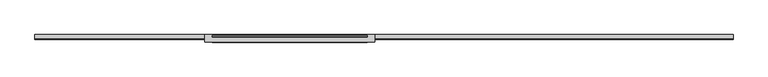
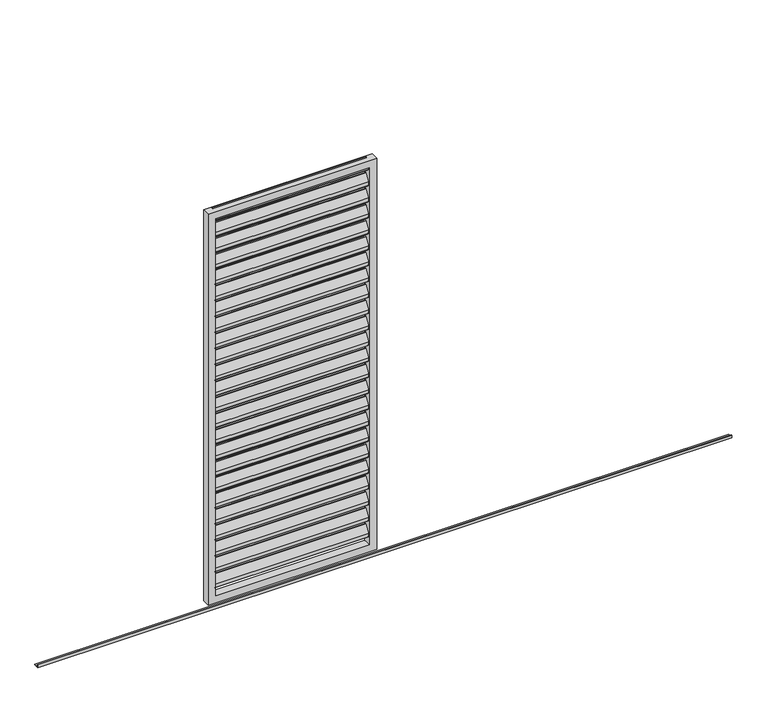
"""IFC4 building model written with IfcOpenShell, lengths in millimetres: proxy geometry, Renson_Amani_Loggia_Paro_Aluminium_Sliding : Renson_Amani_Loggia_Paro_Aluminium_Sliding."""

from ifc_helpers import new_model, si_unit, point, frame, frame_2d, origin, place, context, project, spatial, polyline, circle_curve, trimmed, segment, composite_curve, outline, extrude, source, transform, mapped, element, save


def generic_models_48b574e4(model_context):
    return source(origin(), model_context, "Body", "SweptSolid", [
        extrude(outline(composite_curve([segment(trimmed(circle_curve(frame_2d((12.6675921, 2252.6587719)), 3.0), [point((10.1515804, 2254.292689))], [point((15.6675921, 2252.6587719))], False, "CARTESIAN"), True, "CONTINUOUS"), segment(polyline([(15.6675921, 2252.6587719), (15.6675921, 2234.2979873)]), True, "CONTINUOUS"), segment(trimmed(circle_curve(frame_2d((12.6675921, 2234.2979873)), 3.0), [point((15.6675921, 2234.2979873))], [point((15.1836038, 2232.6640702))], False, "CARTESIAN"), True, "CONTINUOUS"), segment(polyline([(15.1836038, 2232.6640702), (-8.8163962, 2195.707311)]), True, "CONTINUOUS"), segment(trimmed(circle_curve(frame_2d((-11.3324079, 2197.3412281)), 3.0), [point((-8.8163962, 2195.707311))], [point((-14.3324079, 2197.3412281))], False, "CARTESIAN"), True, "CONTINUOUS"), segment(polyline([(-14.3324079, 2197.3412281), (-14.3324079, 2216.5906532), (10.1515804, 2254.292689)]), True, "CONTINUOUS")], self_intersect=False)), frame((-410.0, 0.0, 0.0), z_axis=(1.0, 0.0, 0.0), x_axis=(0.0, 1.0, 0.0)), (0.0, 0.0, 1.0), 820.0),
        extrude(outline(composite_curve([segment(trimmed(circle_curve(frame_2d((12.6675921, 2162.6587719)), 3.0), [point((10.1515804, 2164.292689))], [point((15.6675921, 2162.6587719))], False, "CARTESIAN"), True, "CONTINUOUS"), segment(polyline([(15.6675921, 2162.6587719), (15.6675921, 2144.2979873)]), True, "CONTINUOUS"), segment(trimmed(circle_curve(frame_2d((12.6675921, 2144.2979873)), 3.0), [point((15.6675921, 2144.2979873))], [point((15.1836038, 2142.6640702))], False, "CARTESIAN"), True, "CONTINUOUS"), segment(polyline([(15.1836038, 2142.6640702), (-8.8163962, 2105.707311)]), True, "CONTINUOUS"), segment(trimmed(circle_curve(frame_2d((-11.3324079, 2107.3412281)), 3.0), [point((-8.8163962, 2105.707311))], [point((-14.3324079, 2107.3412281))], False, "CARTESIAN"), True, "CONTINUOUS"), segment(polyline([(-14.3324079, 2107.3412281), (-14.3324079, 2126.5906532), (10.1515804, 2164.292689)]), True, "CONTINUOUS")], self_intersect=False)), frame((-410.0, 0.0, 0.0), z_axis=(1.0, 0.0, 0.0), x_axis=(0.0, 1.0, 0.0)), (0.0, 0.0, 1.0), 820.0),
        extrude(outline(composite_curve([segment(trimmed(circle_curve(frame_2d((12.6675921, 2072.6587719)), 3.0), [point((10.1515804, 2074.292689))], [point((15.6675921, 2072.6587719))], False, "CARTESIAN"), True, "CONTINUOUS"), segment(polyline([(15.6675921, 2072.6587719), (15.6675921, 2054.2979873)]), True, "CONTINUOUS"), segment(trimmed(circle_curve(frame_2d((12.6675921, 2054.2979873)), 3.0), [point((15.6675921, 2054.2979873))], [point((15.1836038, 2052.6640702))], False, "CARTESIAN"), True, "CONTINUOUS"), segment(polyline([(15.1836038, 2052.6640702), (-8.8163962, 2015.707311)]), True, "CONTINUOUS"), segment(trimmed(circle_curve(frame_2d((-11.3324079, 2017.3412281)), 3.0), [point((-8.8163962, 2015.707311))], [point((-14.3324079, 2017.3412281))], False, "CARTESIAN"), True, "CONTINUOUS"), segment(polyline([(-14.3324079, 2017.3412281), (-14.3324079, 2036.5906532), (10.1515804, 2074.292689)]), True, "CONTINUOUS")], self_intersect=False)), frame((-410.0, 0.0, 0.0), z_axis=(1.0, 0.0, 0.0), x_axis=(0.0, 1.0, 0.0)), (0.0, 0.0, 1.0), 820.0),
        extrude(outline(composite_curve([segment(trimmed(circle_curve(frame_2d((12.6675921, 1982.6587719)), 3.0), [point((10.1515804, 1984.292689))], [point((15.6675921, 1982.6587719))], False, "CARTESIAN"), True, "CONTINUOUS"), segment(polyline([(15.6675921, 1982.6587719), (15.6675921, 1964.2979873)]), True, "CONTINUOUS"), segment(trimmed(circle_curve(frame_2d((12.6675921, 1964.2979873)), 3.0), [point((15.6675921, 1964.2979873))], [point((15.1836038, 1962.6640702))], False, "CARTESIAN"), True, "CONTINUOUS"), segment(polyline([(15.1836038, 1962.6640702), (-8.8163962, 1925.707311)]), True, "CONTINUOUS"), segment(trimmed(circle_curve(frame_2d((-11.3324079, 1927.3412281)), 3.0), [point((-8.8163962, 1925.707311))], [point((-14.3324079, 1927.3412281))], False, "CARTESIAN"), True, "CONTINUOUS"), segment(polyline([(-14.3324079, 1927.3412281), (-14.3324079, 1946.5906532), (10.1515804, 1984.292689)]), True, "CONTINUOUS")], self_intersect=False)), frame((-410.0, 0.0, 0.0), z_axis=(1.0, 0.0, 0.0), x_axis=(0.0, 1.0, 0.0)), (0.0, 0.0, 1.0), 820.0),
        extrude(outline(composite_curve([segment(trimmed(circle_curve(frame_2d((12.6675921, 1892.6587719)), 3.0), [point((10.1515804, 1894.292689))], [point((15.6675921, 1892.6587719))], False, "CARTESIAN"), True, "CONTINUOUS"), segment(polyline([(15.6675921, 1892.6587719), (15.6675921, 1874.2979873)]), True, "CONTINUOUS"), segment(trimmed(circle_curve(frame_2d((12.6675921, 1874.2979873)), 3.0), [point((15.6675921, 1874.2979873))], [point((15.1836038, 1872.6640702))], False, "CARTESIAN"), True, "CONTINUOUS"), segment(polyline([(15.1836038, 1872.6640702), (-8.8163962, 1835.707311)]), True, "CONTINUOUS"), segment(trimmed(circle_curve(frame_2d((-11.3324079, 1837.3412281)), 3.0), [point((-8.8163962, 1835.707311))], [point((-14.3324079, 1837.3412281))], False, "CARTESIAN"), True, "CONTINUOUS"), segment(polyline([(-14.3324079, 1837.3412281), (-14.3324079, 1856.5906532), (10.1515804, 1894.292689)]), True, "CONTINUOUS")], self_intersect=False)), frame((-410.0, 0.0, 0.0), z_axis=(1.0, 0.0, 0.0), x_axis=(0.0, 1.0, 0.0)), (0.0, 0.0, 1.0), 820.0),
        extrude(outline(composite_curve([segment(trimmed(circle_curve(frame_2d((12.6675921, 1802.6587719)), 3.0), [point((10.1515804, 1804.292689))], [point((15.6675921, 1802.6587719))], False, "CARTESIAN"), True, "CONTINUOUS"), segment(polyline([(15.6675921, 1802.6587719), (15.6675921, 1784.2979873)]), True, "CONTINUOUS"), segment(trimmed(circle_curve(frame_2d((12.6675921, 1784.2979873)), 3.0), [point((15.6675921, 1784.2979873))], [point((15.1836038, 1782.6640702))], False, "CARTESIAN"), True, "CONTINUOUS"), segment(polyline([(15.1836038, 1782.6640702), (-8.8163962, 1745.707311)]), True, "CONTINUOUS"), segment(trimmed(circle_curve(frame_2d((-11.3324079, 1747.3412281)), 3.0), [point((-8.8163962, 1745.707311))], [point((-14.3324079, 1747.3412281))], False, "CARTESIAN"), True, "CONTINUOUS"), segment(polyline([(-14.3324079, 1747.3412281), (-14.3324079, 1766.5906532), (10.1515804, 1804.292689)]), True, "CONTINUOUS")], self_intersect=False)), frame((-410.0, 0.0, 0.0), z_axis=(1.0, 0.0, 0.0), x_axis=(0.0, 1.0, 0.0)), (0.0, 0.0, 1.0), 820.0),
        extrude(outline(composite_curve([segment(trimmed(circle_curve(frame_2d((12.6675921, 1712.6587719)), 3.0), [point((10.1515804, 1714.292689))], [point((15.6675921, 1712.6587719))], False, "CARTESIAN"), True, "CONTINUOUS"), segment(polyline([(15.6675921, 1712.6587719), (15.6675921, 1694.2979873)]), True, "CONTINUOUS"), segment(trimmed(circle_curve(frame_2d((12.6675921, 1694.2979873)), 3.0), [point((15.6675921, 1694.2979873))], [point((15.1836038, 1692.6640702))], False, "CARTESIAN"), True, "CONTINUOUS"), segment(polyline([(15.1836038, 1692.6640702), (-8.8163962, 1655.707311)]), True, "CONTINUOUS"), segment(trimmed(circle_curve(frame_2d((-11.3324079, 1657.3412281)), 3.0), [point((-8.8163962, 1655.707311))], [point((-14.3324079, 1657.3412281))], False, "CARTESIAN"), True, "CONTINUOUS"), segment(polyline([(-14.3324079, 1657.3412281), (-14.3324079, 1676.5906532), (10.1515804, 1714.292689)]), True, "CONTINUOUS")], self_intersect=False)), frame((-410.0, 0.0, 0.0), z_axis=(1.0, 0.0, 0.0), x_axis=(0.0, 1.0, 0.0)), (0.0, 0.0, 1.0), 820.0),
        extrude(outline(composite_curve([segment(trimmed(circle_curve(frame_2d((12.6675921, 1622.6587719)), 3.0), [point((10.1515804, 1624.292689))], [point((15.6675921, 1622.6587719))], False, "CARTESIAN"), True, "CONTINUOUS"), segment(polyline([(15.6675921, 1622.6587719), (15.6675921, 1604.2979873)]), True, "CONTINUOUS"), segment(trimmed(circle_curve(frame_2d((12.6675921, 1604.2979873)), 3.0), [point((15.6675921, 1604.2979873))], [point((15.1836038, 1602.6640702))], False, "CARTESIAN"), True, "CONTINUOUS"), segment(polyline([(15.1836038, 1602.6640702), (-8.8163962, 1565.707311)]), True, "CONTINUOUS"), segment(trimmed(circle_curve(frame_2d((-11.3324079, 1567.3412281)), 3.0), [point((-8.8163962, 1565.707311))], [point((-14.3324079, 1567.3412281))], False, "CARTESIAN"), True, "CONTINUOUS"), segment(polyline([(-14.3324079, 1567.3412281), (-14.3324079, 1586.5906532), (10.1515804, 1624.292689)]), True, "CONTINUOUS")], self_intersect=False)), frame((-410.0, 0.0, 0.0), z_axis=(1.0, 0.0, 0.0), x_axis=(0.0, 1.0, 0.0)), (0.0, 0.0, 1.0), 820.0),
        extrude(outline(composite_curve([segment(trimmed(circle_curve(frame_2d((12.6675921, 1532.6587719)), 3.0), [point((10.1515804, 1534.292689))], [point((15.6675921, 1532.6587719))], False, "CARTESIAN"), True, "CONTINUOUS"), segment(polyline([(15.6675921, 1532.6587719), (15.6675921, 1514.2979873)]), True, "CONTINUOUS"), segment(trimmed(circle_curve(frame_2d((12.6675921, 1514.2979873)), 3.0), [point((15.6675921, 1514.2979873))], [point((15.1836038, 1512.6640702))], False, "CARTESIAN"), True, "CONTINUOUS"), segment(polyline([(15.1836038, 1512.6640702), (-8.8163962, 1475.707311)]), True, "CONTINUOUS"), segment(trimmed(circle_curve(frame_2d((-11.3324079, 1477.3412281)), 3.0), [point((-8.8163962, 1475.707311))], [point((-14.3324079, 1477.3412281))], False, "CARTESIAN"), True, "CONTINUOUS"), segment(polyline([(-14.3324079, 1477.3412281), (-14.3324079, 1496.5906532), (10.1515804, 1534.292689)]), True, "CONTINUOUS")], self_intersect=False)), frame((-410.0, 0.0, 0.0), z_axis=(1.0, 0.0, 0.0), x_axis=(0.0, 1.0, 0.0)), (0.0, 0.0, 1.0), 820.0),
        extrude(outline(composite_curve([segment(trimmed(circle_curve(frame_2d((12.6675921, 1442.6587719)), 3.0), [point((10.1515804, 1444.292689))], [point((15.6675921, 1442.6587719))], False, "CARTESIAN"), True, "CONTINUOUS"), segment(polyline([(15.6675921, 1442.6587719), (15.6675921, 1424.2979873)]), True, "CONTINUOUS"), segment(trimmed(circle_curve(frame_2d((12.6675921, 1424.2979873)), 3.0), [point((15.6675921, 1424.2979873))], [point((15.1836038, 1422.6640702))], False, "CARTESIAN"), True, "CONTINUOUS"), segment(polyline([(15.1836038, 1422.6640702), (-8.8163962, 1385.707311)]), True, "CONTINUOUS"), segment(trimmed(circle_curve(frame_2d((-11.3324079, 1387.3412281)), 3.0), [point((-8.8163962, 1385.707311))], [point((-14.3324079, 1387.3412281))], False, "CARTESIAN"), True, "CONTINUOUS"), segment(polyline([(-14.3324079, 1387.3412281), (-14.3324079, 1406.5906532), (10.1515804, 1444.292689)]), True, "CONTINUOUS")], self_intersect=False)), frame((-410.0, 0.0, 0.0), z_axis=(1.0, 0.0, 0.0), x_axis=(0.0, 1.0, 0.0)), (0.0, 0.0, 1.0), 820.0),
        extrude(outline(composite_curve([segment(trimmed(circle_curve(frame_2d((12.6675921, 1352.6587719)), 3.0), [point((10.1515804, 1354.292689))], [point((15.6675921, 1352.6587719))], False, "CARTESIAN"), True, "CONTINUOUS"), segment(polyline([(15.6675921, 1352.6587719), (15.6675921, 1334.2979873)]), True, "CONTINUOUS"), segment(trimmed(circle_curve(frame_2d((12.6675921, 1334.2979873)), 3.0), [point((15.6675921, 1334.2979873))], [point((15.1836038, 1332.6640702))], False, "CARTESIAN"), True, "CONTINUOUS"), segment(polyline([(15.1836038, 1332.6640702), (-8.8163962, 1295.707311)]), True, "CONTINUOUS"), segment(trimmed(circle_curve(frame_2d((-11.3324079, 1297.3412281)), 3.0), [point((-8.8163962, 1295.707311))], [point((-14.3324079, 1297.3412281))], False, "CARTESIAN"), True, "CONTINUOUS"), segment(polyline([(-14.3324079, 1297.3412281), (-14.3324079, 1316.5906532), (10.1515804, 1354.292689)]), True, "CONTINUOUS")], self_intersect=False)), frame((-410.0, 0.0, 0.0), z_axis=(1.0, 0.0, 0.0), x_axis=(0.0, 1.0, 0.0)), (0.0, 0.0, 1.0), 820.0),
        extrude(outline(composite_curve([segment(trimmed(circle_curve(frame_2d((12.6675921, 1262.6587719)), 3.0), [point((10.1515804, 1264.292689))], [point((15.6675921, 1262.6587719))], False, "CARTESIAN"), True, "CONTINUOUS"), segment(polyline([(15.6675921, 1262.6587719), (15.6675921, 1244.2979873)]), True, "CONTINUOUS"), segment(trimmed(circle_curve(frame_2d((12.6675921, 1244.2979873)), 3.0), [point((15.6675921, 1244.2979873))], [point((15.1836038, 1242.6640702))], False, "CARTESIAN"), True, "CONTINUOUS"), segment(polyline([(15.1836038, 1242.6640702), (-8.8163962, 1205.707311)]), True, "CONTINUOUS"), segment(trimmed(circle_curve(frame_2d((-11.3324079, 1207.3412281)), 3.0), [point((-8.8163962, 1205.707311))], [point((-14.3324079, 1207.3412281))], False, "CARTESIAN"), True, "CONTINUOUS"), segment(polyline([(-14.3324079, 1207.3412281), (-14.3324079, 1226.5906532), (10.1515804, 1264.292689)]), True, "CONTINUOUS")], self_intersect=False)), frame((-410.0, 0.0, 0.0), z_axis=(1.0, 0.0, 0.0), x_axis=(0.0, 1.0, 0.0)), (0.0, 0.0, 1.0), 820.0),
        extrude(outline(composite_curve([segment(trimmed(circle_curve(frame_2d((12.6675921, 1172.6587719)), 3.0), [point((10.1515804, 1174.292689))], [point((15.6675921, 1172.6587719))], False, "CARTESIAN"), True, "CONTINUOUS"), segment(polyline([(15.6675921, 1172.6587719), (15.6675921, 1154.2979873)]), True, "CONTINUOUS"), segment(trimmed(circle_curve(frame_2d((12.6675921, 1154.2979873)), 3.0), [point((15.6675921, 1154.2979873))], [point((15.1836038, 1152.6640702))], False, "CARTESIAN"), True, "CONTINUOUS"), segment(polyline([(15.1836038, 1152.6640702), (-8.8163962, 1115.707311)]), True, "CONTINUOUS"), segment(trimmed(circle_curve(frame_2d((-11.3324079, 1117.3412281)), 3.0), [point((-8.8163962, 1115.707311))], [point((-14.3324079, 1117.3412281))], False, "CARTESIAN"), True, "CONTINUOUS"), segment(polyline([(-14.3324079, 1117.3412281), (-14.3324079, 1136.5906532), (10.1515804, 1174.292689)]), True, "CONTINUOUS")], self_intersect=False)), frame((-410.0, 0.0, 0.0), z_axis=(1.0, 0.0, 0.0), x_axis=(0.0, 1.0, 0.0)), (0.0, 0.0, 1.0), 820.0),
        extrude(outline(composite_curve([segment(trimmed(circle_curve(frame_2d((12.6675921, 1082.6587719)), 3.0), [point((10.1515804, 1084.292689))], [point((15.6675921, 1082.6587719))], False, "CARTESIAN"), True, "CONTINUOUS"), segment(polyline([(15.6675921, 1082.6587719), (15.6675921, 1064.2979873)]), True, "CONTINUOUS"), segment(trimmed(circle_curve(frame_2d((12.6675921, 1064.2979873)), 3.0), [point((15.6675921, 1064.2979873))], [point((15.1836038, 1062.6640702))], False, "CARTESIAN"), True, "CONTINUOUS"), segment(polyline([(15.1836038, 1062.6640702), (-8.8163962, 1025.707311)]), True, "CONTINUOUS"), segment(trimmed(circle_curve(frame_2d((-11.3324079, 1027.3412281)), 3.0), [point((-8.8163962, 1025.707311))], [point((-14.3324079, 1027.3412281))], False, "CARTESIAN"), True, "CONTINUOUS"), segment(polyline([(-14.3324079, 1027.3412281), (-14.3324079, 1046.5906532), (10.1515804, 1084.292689)]), True, "CONTINUOUS")], self_intersect=False)), frame((-410.0, 0.0, 0.0), z_axis=(1.0, 0.0, 0.0), x_axis=(0.0, 1.0, 0.0)), (0.0, 0.0, 1.0), 820.0),
        extrude(outline(composite_curve([segment(trimmed(circle_curve(frame_2d((12.6675921, 992.6587719)), 3.0), [point((10.1515804, 994.292689))], [point((15.6675921, 992.6587719))], False, "CARTESIAN"), True, "CONTINUOUS"), segment(polyline([(15.6675921, 992.6587719), (15.6675921, 974.2979873)]), True, "CONTINUOUS"), segment(trimmed(circle_curve(frame_2d((12.6675921, 974.2979873)), 3.0), [point((15.6675921, 974.2979873))], [point((15.1836038, 972.6640702))], False, "CARTESIAN"), True, "CONTINUOUS"), segment(polyline([(15.1836038, 972.6640702), (-8.8163962, 935.707311)]), True, "CONTINUOUS"), segment(trimmed(circle_curve(frame_2d((-11.3324079, 937.3412281)), 3.0), [point((-8.8163962, 935.707311))], [point((-14.3324079, 937.3412281))], False, "CARTESIAN"), True, "CONTINUOUS"), segment(polyline([(-14.3324079, 937.3412281), (-14.3324079, 956.5906532), (10.1515804, 994.292689)]), True, "CONTINUOUS")], self_intersect=False)), frame((-410.0, 0.0, 0.0), z_axis=(1.0, 0.0, 0.0), x_axis=(0.0, 1.0, 0.0)), (0.0, 0.0, 1.0), 820.0),
        extrude(outline(composite_curve([segment(trimmed(circle_curve(frame_2d((12.6675921, 902.6587719)), 3.0), [point((10.1515804, 904.292689))], [point((15.6675921, 902.6587719))], False, "CARTESIAN"), True, "CONTINUOUS"), segment(polyline([(15.6675921, 902.6587719), (15.6675921, 884.2979873)]), True, "CONTINUOUS"), segment(trimmed(circle_curve(frame_2d((12.6675921, 884.2979873)), 3.0), [point((15.6675921, 884.2979873))], [point((15.1836038, 882.6640702))], False, "CARTESIAN"), True, "CONTINUOUS"), segment(polyline([(15.1836038, 882.6640702), (-8.8163962, 845.707311)]), True, "CONTINUOUS"), segment(trimmed(circle_curve(frame_2d((-11.3324079, 847.3412281)), 3.0), [point((-8.8163962, 845.707311))], [point((-14.3324079, 847.3412281))], False, "CARTESIAN"), True, "CONTINUOUS"), segment(polyline([(-14.3324079, 847.3412281), (-14.3324079, 866.5906532), (10.1515804, 904.292689)]), True, "CONTINUOUS")], self_intersect=False)), frame((-410.0, 0.0, 0.0), z_axis=(1.0, 0.0, 0.0), x_axis=(0.0, 1.0, 0.0)), (0.0, 0.0, 1.0), 820.0),
        extrude(outline(composite_curve([segment(trimmed(circle_curve(frame_2d((12.6675921, 812.6587719)), 3.0), [point((10.1515804, 814.292689))], [point((15.6675921, 812.6587719))], False, "CARTESIAN"), True, "CONTINUOUS"), segment(polyline([(15.6675921, 812.6587719), (15.6675921, 794.2979873)]), True, "CONTINUOUS"), segment(trimmed(circle_curve(frame_2d((12.6675921, 794.2979873)), 3.0), [point((15.6675921, 794.2979873))], [point((15.1836038, 792.6640702))], False, "CARTESIAN"), True, "CONTINUOUS"), segment(polyline([(15.1836038, 792.6640702), (-8.8163962, 755.707311)]), True, "CONTINUOUS"), segment(trimmed(circle_curve(frame_2d((-11.3324079, 757.3412281)), 3.0), [point((-8.8163962, 755.707311))], [point((-14.3324079, 757.3412281))], False, "CARTESIAN"), True, "CONTINUOUS"), segment(polyline([(-14.3324079, 757.3412281), (-14.3324079, 776.5906532), (10.1515804, 814.292689)]), True, "CONTINUOUS")], self_intersect=False)), frame((-410.0, 0.0, 0.0), z_axis=(1.0, 0.0, 0.0), x_axis=(0.0, 1.0, 0.0)), (0.0, 0.0, 1.0), 820.0),
        extrude(outline(composite_curve([segment(trimmed(circle_curve(frame_2d((12.6675921, 722.6587719)), 3.0), [point((10.1515804, 724.292689))], [point((15.6675921, 722.6587719))], False, "CARTESIAN"), True, "CONTINUOUS"), segment(polyline([(15.6675921, 722.6587719), (15.6675921, 704.2979873)]), True, "CONTINUOUS"), segment(trimmed(circle_curve(frame_2d((12.6675921, 704.2979873)), 3.0), [point((15.6675921, 704.2979873))], [point((15.1836038, 702.6640702))], False, "CARTESIAN"), True, "CONTINUOUS"), segment(polyline([(15.1836038, 702.6640702), (-8.8163962, 665.707311)]), True, "CONTINUOUS"), segment(trimmed(circle_curve(frame_2d((-11.3324079, 667.3412281)), 3.0), [point((-8.8163962, 665.707311))], [point((-14.3324079, 667.3412281))], False, "CARTESIAN"), True, "CONTINUOUS"), segment(polyline([(-14.3324079, 667.3412281), (-14.3324079, 686.5906532), (10.1515804, 724.292689)]), True, "CONTINUOUS")], self_intersect=False)), frame((-410.0, 0.0, 0.0), z_axis=(1.0, 0.0, 0.0), x_axis=(0.0, 1.0, 0.0)), (0.0, 0.0, 1.0), 820.0),
        extrude(outline(composite_curve([segment(trimmed(circle_curve(frame_2d((12.6675921, 632.6587719)), 3.0), [point((10.1515804, 634.292689))], [point((15.6675921, 632.6587719))], False, "CARTESIAN"), True, "CONTINUOUS"), segment(polyline([(15.6675921, 632.6587719), (15.6675921, 614.2979873)]), True, "CONTINUOUS"), segment(trimmed(circle_curve(frame_2d((12.6675921, 614.2979873)), 3.0), [point((15.6675921, 614.2979873))], [point((15.1836038, 612.6640702))], False, "CARTESIAN"), True, "CONTINUOUS"), segment(polyline([(15.1836038, 612.6640702), (-8.8163962, 575.707311)]), True, "CONTINUOUS"), segment(trimmed(circle_curve(frame_2d((-11.3324079, 577.3412281)), 3.0), [point((-8.8163962, 575.707311))], [point((-14.3324079, 577.3412281))], False, "CARTESIAN"), True, "CONTINUOUS"), segment(polyline([(-14.3324079, 577.3412281), (-14.3324079, 596.5906532), (10.1515804, 634.292689)]), True, "CONTINUOUS")], self_intersect=False)), frame((-410.0, 0.0, 0.0), z_axis=(1.0, 0.0, 0.0), x_axis=(0.0, 1.0, 0.0)), (0.0, 0.0, 1.0), 820.0),
        extrude(outline(composite_curve([segment(trimmed(circle_curve(frame_2d((12.6675921, 542.6587719)), 3.0), [point((10.1515804, 544.292689))], [point((15.6675921, 542.6587719))], False, "CARTESIAN"), True, "CONTINUOUS"), segment(polyline([(15.6675921, 542.6587719), (15.6675921, 524.2979873)]), True, "CONTINUOUS"), segment(trimmed(circle_curve(frame_2d((12.6675921, 524.2979873)), 3.0), [point((15.6675921, 524.2979873))], [point((15.1836038, 522.6640702))], False, "CARTESIAN"), True, "CONTINUOUS"), segment(polyline([(15.1836038, 522.6640702), (-8.8163962, 485.707311)]), True, "CONTINUOUS"), segment(trimmed(circle_curve(frame_2d((-11.3324079, 487.3412281)), 3.0), [point((-8.8163962, 485.707311))], [point((-14.3324079, 487.3412281))], False, "CARTESIAN"), True, "CONTINUOUS"), segment(polyline([(-14.3324079, 487.3412281), (-14.3324079, 506.5906532), (10.1515804, 544.292689)]), True, "CONTINUOUS")], self_intersect=False)), frame((-410.0, 0.0, 0.0), z_axis=(1.0, 0.0, 0.0), x_axis=(0.0, 1.0, 0.0)), (0.0, 0.0, 1.0), 820.0),
        extrude(outline(composite_curve([segment(trimmed(circle_curve(frame_2d((12.6675921, 452.6587719)), 3.0), [point((10.1515804, 454.292689))], [point((15.6675921, 452.6587719))], False, "CARTESIAN"), True, "CONTINUOUS"), segment(polyline([(15.6675921, 452.6587719), (15.6675921, 434.2979873)]), True, "CONTINUOUS"), segment(trimmed(circle_curve(frame_2d((12.6675921, 434.2979873)), 3.0), [point((15.6675921, 434.2979873))], [point((15.1836038, 432.6640702))], False, "CARTESIAN"), True, "CONTINUOUS"), segment(polyline([(15.1836038, 432.6640702), (-8.8163962, 395.707311)]), True, "CONTINUOUS"), segment(trimmed(circle_curve(frame_2d((-11.3324079, 397.3412281)), 3.0), [point((-8.8163962, 395.707311))], [point((-14.3324079, 397.3412281))], False, "CARTESIAN"), True, "CONTINUOUS"), segment(polyline([(-14.3324079, 397.3412281), (-14.3324079, 416.5906532), (10.1515804, 454.292689)]), True, "CONTINUOUS")], self_intersect=False)), frame((-410.0, 0.0, 0.0), z_axis=(1.0, 0.0, 0.0), x_axis=(0.0, 1.0, 0.0)), (0.0, 0.0, 1.0), 820.0),
        extrude(outline(composite_curve([segment(trimmed(circle_curve(frame_2d((12.6675921, 362.6587719)), 3.0), [point((10.1515804, 364.292689))], [point((15.6675921, 362.6587719))], False, "CARTESIAN"), True, "CONTINUOUS"), segment(polyline([(15.6675921, 362.6587719), (15.6675921, 344.2979873)]), True, "CONTINUOUS"), segment(trimmed(circle_curve(frame_2d((12.6675921, 344.2979873)), 3.0), [point((15.6675921, 344.2979873))], [point((15.1836038, 342.6640702))], False, "CARTESIAN"), True, "CONTINUOUS"), segment(polyline([(15.1836038, 342.6640702), (-8.8163962, 305.707311)]), True, "CONTINUOUS"), segment(trimmed(circle_curve(frame_2d((-11.3324079, 307.3412281)), 3.0), [point((-8.8163962, 305.707311))], [point((-14.3324079, 307.3412281))], False, "CARTESIAN"), True, "CONTINUOUS"), segment(polyline([(-14.3324079, 307.3412281), (-14.3324079, 326.5906532), (10.1515804, 364.292689)]), True, "CONTINUOUS")], self_intersect=False)), frame((-410.0, 0.0, 0.0), z_axis=(1.0, 0.0, 0.0), x_axis=(0.0, 1.0, 0.0)), (0.0, 0.0, 1.0), 820.0),
        extrude(outline(composite_curve([segment(trimmed(circle_curve(frame_2d((12.6675921, 272.6587719)), 3.0), [point((10.1515804, 274.292689))], [point((15.6675921, 272.6587719))], False, "CARTESIAN"), True, "CONTINUOUS"), segment(polyline([(15.6675921, 272.6587719), (15.6675921, 254.2979873)]), True, "CONTINUOUS"), segment(trimmed(circle_curve(frame_2d((12.6675921, 254.2979873)), 3.0), [point((15.6675921, 254.2979873))], [point((15.1836038, 252.6640702))], False, "CARTESIAN"), True, "CONTINUOUS"), segment(polyline([(15.1836038, 252.6640702), (-8.8163962, 215.707311)]), True, "CONTINUOUS"), segment(trimmed(circle_curve(frame_2d((-11.3324079, 217.3412281)), 3.0), [point((-8.8163962, 215.707311))], [point((-14.3324079, 217.3412281))], False, "CARTESIAN"), True, "CONTINUOUS"), segment(polyline([(-14.3324079, 217.3412281), (-14.3324079, 236.5906532), (10.1515804, 274.292689)]), True, "CONTINUOUS")], self_intersect=False)), frame((-410.0, 0.0, 0.0), z_axis=(1.0, 0.0, 0.0), x_axis=(0.0, 1.0, 0.0)), (0.0, 0.0, 1.0), 820.0),
        extrude(outline(composite_curve([segment(trimmed(circle_curve(frame_2d((12.6675921, 182.6587719)), 3.0), [point((10.1515804, 184.292689))], [point((15.6675921, 182.6587719))], False, "CARTESIAN"), True, "CONTINUOUS"), segment(polyline([(15.6675921, 182.6587719), (15.6675921, 164.2979873)]), True, "CONTINUOUS"), segment(trimmed(circle_curve(frame_2d((12.6675921, 164.2979873)), 3.0), [point((15.6675921, 164.2979873))], [point((15.1836038, 162.6640702))], False, "CARTESIAN"), True, "CONTINUOUS"), segment(polyline([(15.1836038, 162.6640702), (-8.8163962, 125.707311)]), True, "CONTINUOUS"), segment(trimmed(circle_curve(frame_2d((-11.3324079, 127.3412281)), 3.0), [point((-8.8163962, 125.707311))], [point((-14.3324079, 127.3412281))], False, "CARTESIAN"), True, "CONTINUOUS"), segment(polyline([(-14.3324079, 127.3412281), (-14.3324079, 146.5906532), (10.1515804, 184.292689)]), True, "CONTINUOUS")], self_intersect=False)), frame((-410.0, 0.0, 0.0), z_axis=(1.0, 0.0, 0.0), x_axis=(0.0, 1.0, 0.0)), (0.0, 0.0, 1.0), 820.0),
        extrude(outline(polyline([(-6.0, 15.0), (-3.0, 15.0), (-3.0, 3.0), (20.0, 3.0), (20.0, 0.0), (-6.0, 0.0), (-6.0, 15.0)])), frame((-1350.0, 0.0, 0.0), z_axis=(1.0, 0.0, 0.0), x_axis=(0.0, 1.0, 0.0)), (0.0, 0.0, 1.0), 3700.0),
        extrude(outline(polyline([(2250.0, -450.0), (45.0, -450.0), (45.0, 450.0), (2250.0, 450.0), (2250.0, -450.0)]), holes=[polyline([(2210.0, 410.0), (85.0, 410.0), (85.0, -410.0), (2210.0, -410.0), (2210.0, 410.0)])]), frame((0.0, -20.0, 0.0), z_axis=(0.0, 1.0, 0.0), x_axis=(0.0, 0.0, 1.0)), (0.0, 0.0, 1.0), 40.0),
    ])


if __name__ == "__main__":
    model = new_model("IFC4")
    model_context = context("Model", 3, world=origin())
    ifc_project = project(units=[si_unit("LENGTHUNIT", "METRE", prefix="MILLI")], contexts=[model_context])
    site = spatial("IfcSite", under=ifc_project)
    building = spatial("IfcBuilding", under=site)
    placement = place(None, origin())
    generic_models_shape = generic_models_48b574e4(model_context)
    element("IfcBuildingElementProxy", 1, Name="Renson_Amani_Loggia_Paro_Aluminium_Sliding : Renson_Amani_Loggia_Paro_Aluminium_Sliding", ObjectType="Renson_Amani_Loggia_Paro_Aluminium_Sliding : Renson_Amani_Loggia_Paro_Aluminium_Sliding", at=placement, inside=building, context=model_context, shape_type="MappedRepresentation", body=[
        mapped(generic_models_shape, transform((0.0, 0.0, 0.0), x_axis=(1.0, 0.0, 0.0), y_axis=(0.0, 1.0, 0.0), z_axis=(0.0, 0.0, 1.0))),
    ])
    save(model, "model.ifc")
